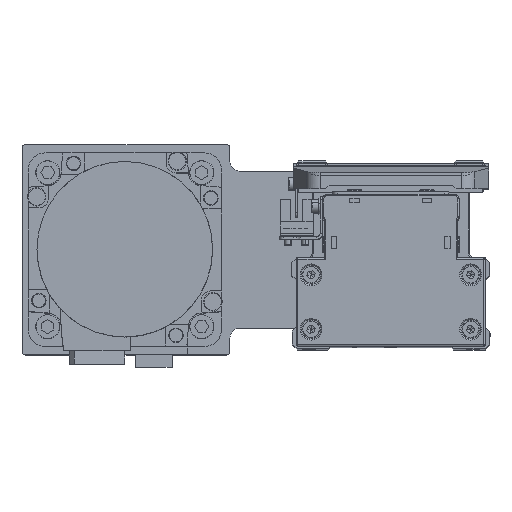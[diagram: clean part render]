
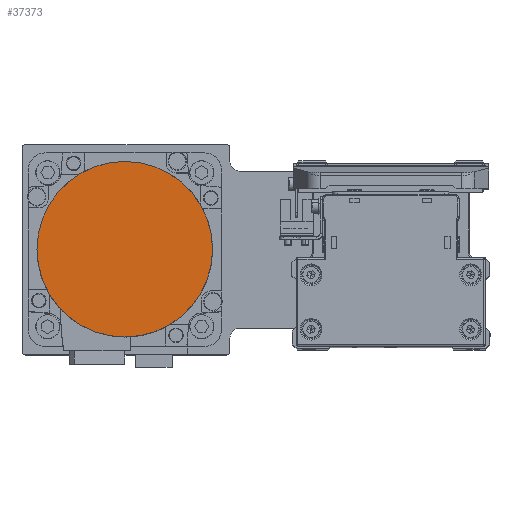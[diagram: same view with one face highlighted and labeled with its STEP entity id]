
A CAD part, top view. The second image highlights one B-rep face of the part: STEP entity #37373.
In plain terms, the highlighted planar face has unit normal (0, 0, 1) as drawn and (0, 0, -1) by its records, which use the part's own axes.
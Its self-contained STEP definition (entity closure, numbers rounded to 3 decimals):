
#290 = DIRECTION ( 'NONE',  ( 0., 0., 1. ) ) ;
#804 = DIRECTION ( 'NONE',  ( 0., 0., 1. ) ) ;
#1553 = CARTESIAN_POINT ( 'NONE',  ( 0., -36.3, -122.2 ) ) ;
#2486 = AXIS2_PLACEMENT_3D ( 'NONE', #27369, #290, #12362 ) ;
#3710 = DIRECTION ( 'NONE',  ( 0., 0., 1. ) ) ;
#3764 = FACE_OUTER_BOUND ( 'NONE', #33307, .T. ) ;
#5600 = VERTEX_POINT ( 'NONE', #1553 ) ;
#7110 = EDGE_CURVE ( 'NONE', #5600, #19623, #36570, .T. ) ;
#9410 = AXIS2_PLACEMENT_3D ( 'NONE', #27886, #804, #12881 ) ;
#12184 = CARTESIAN_POINT ( 'NONE',  ( 0., 36.3, -122.2 ) ) ;
#12186 = ORIENTED_EDGE ( 'NONE', *, *, #7110, .F. ) ;
#12362 = DIRECTION ( 'NONE',  ( 0., -1., 0. ) ) ;
#12881 = DIRECTION ( 'NONE',  ( 1., 0., 0. ) ) ;
#15774 = DIRECTION ( 'NONE',  ( 0., 1., 0. ) ) ;
#15832 = PLANE ( 'NONE',  #9410 ) ;
#18720 = AXIS2_PLACEMENT_3D ( 'NONE', #33755, #3710, #15774 ) ;
#19253 = EDGE_CURVE ( 'NONE', #19623, #5600, #35751, .T. ) ;
#19623 = VERTEX_POINT ( 'NONE', #12184 ) ;
#27369 = CARTESIAN_POINT ( 'NONE',  ( 0., 0., -122.2 ) ) ;
#27886 = CARTESIAN_POINT ( 'NONE',  ( 0., 0., -122.2 ) ) ;
#27887 = ORIENTED_EDGE ( 'NONE', *, *, #19253, .F. ) ;
#33307 = EDGE_LOOP ( 'NONE', ( #27887, #12186 ) ) ;
#33755 = CARTESIAN_POINT ( 'NONE',  ( 0., 0., -122.2 ) ) ;
#35751 = CIRCLE ( 'NONE', #18720, 36.3 ) ;
#36570 = CIRCLE ( 'NONE', #2486, 36.3 ) ;
#37373 = ADVANCED_FACE ( 'NONE', ( #3764 ), #15832, .F. ) ;
